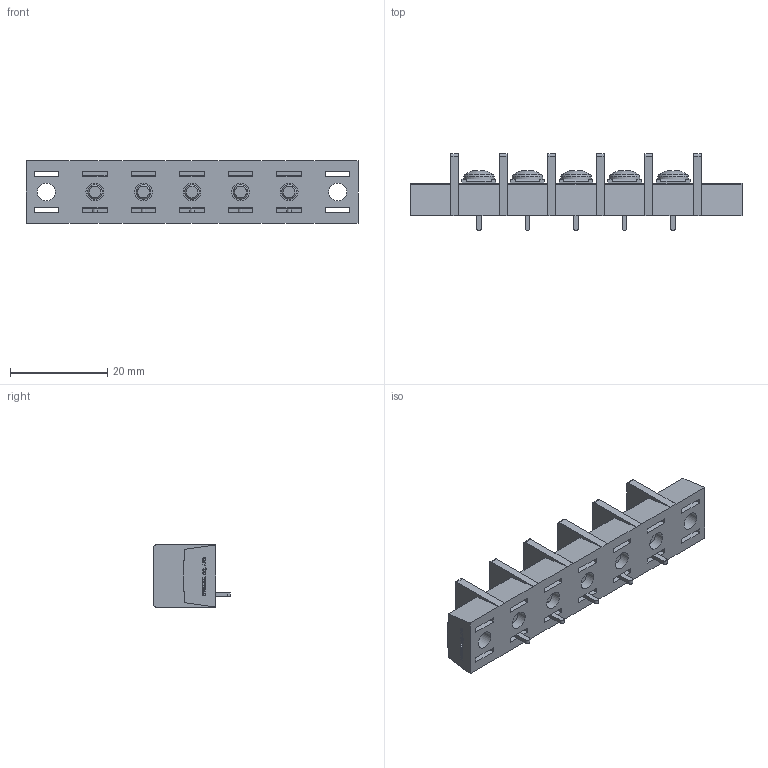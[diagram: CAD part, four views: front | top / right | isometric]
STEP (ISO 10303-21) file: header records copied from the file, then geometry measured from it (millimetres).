
FILE_DESCRIPTION(/* description */ ('Alibre Inc.'),/* implementation_level */ '2;1');
FILE_NAME(/* name */ 'export0',/* time_stamp */ '2015-10-22T19:49:29+09:00',/* author */ (''),/* organization */ (''),/* preprocessor_version */ 'ST-DEVELOPER v14',/* originating_system */ 'Alibre',/* authorisation */ '');
FILE_SCHEMA (('CONFIG_CONTROL_DESIGN'));
Length unit declared in the file: centimetre
Products named in the file (1): ID_1
Bounding box: 68.4 x 15.8 x 12.8 mm (x, y, z)
Volume: 5815 mm3; surface area: 6674.7 mm2
Topology: 1 solids, 86 shells, 1817 faces, 4687 edges, 3104 vertices
Faces by surface type: plane 1357, bspline 364, cylinder 56, cone 25, torus 10, sphere 5
Full cylindrical faces by diameter (mm): 3 x10, 3.7 x7, 4.6 x7, 6.3 x5
Entity records: 52818 total; most frequent: CARTESIAN_POINT 12822, ORIENTED_EDGE 9252, DIRECTION 5496, EDGE_CURVE 4626, VECTOR 3579, LINE 3579, VERTEX_POINT 3087, EDGE_LOOP 2005
